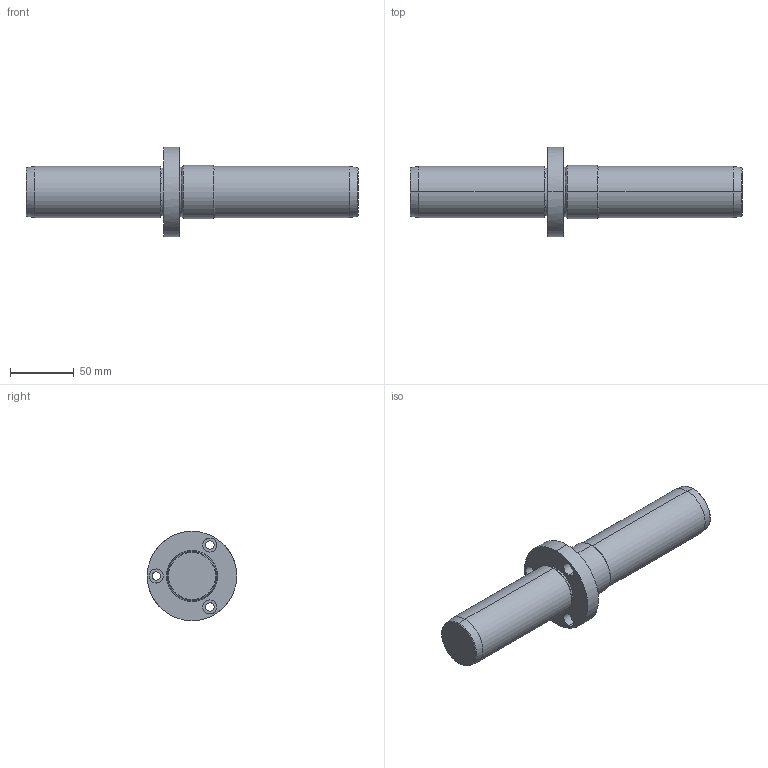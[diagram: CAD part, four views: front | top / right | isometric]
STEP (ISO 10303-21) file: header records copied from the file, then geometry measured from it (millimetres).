
FILE_DESCRIPTION(('CATIA V5 STEP Exchange'),'2;1');
FILE_NAME('C:\Users\Utente\Desktop\IO LAVORO\3D X SITO CF\X SITO\721\721-40x260.stp','2021-01-01T15:24:09+00:00',('none'),('none'),'CATIA Version 5 Release 20 GA (IN-10)','CATIA V5 STEP AP203','none');
FILE_SCHEMA(('CONFIG_CONTROL_DESIGN'));
Length unit declared in the file: millimetre
Products named in the file (1): 721-40x260
Bounding box: 260 x 70 x 70 mm (x, y, z)
Volume: 357186.4 mm3; surface area: 42585.6 mm2
Topology: 1 solids, 1 shells, 45 faces, 150 edges, 112 vertices
Faces by surface type: cylinder 24, cone 10, plane 7, torus 4
Entity records: 2048 total; most frequent: CARTESIAN_POINT 718, ORIENTED_EDGE 300, DIRECTION 206, EDGE_CURVE 150, AXIS2_PLACEMENT_3D 128, VERTEX_POINT 112, CIRCLE 82, EDGE_LOOP 56
